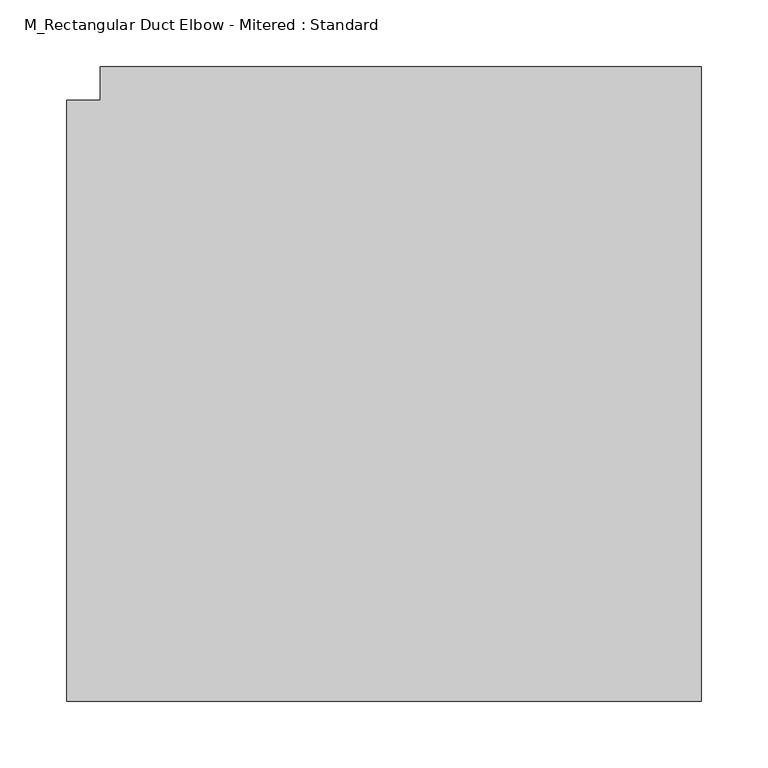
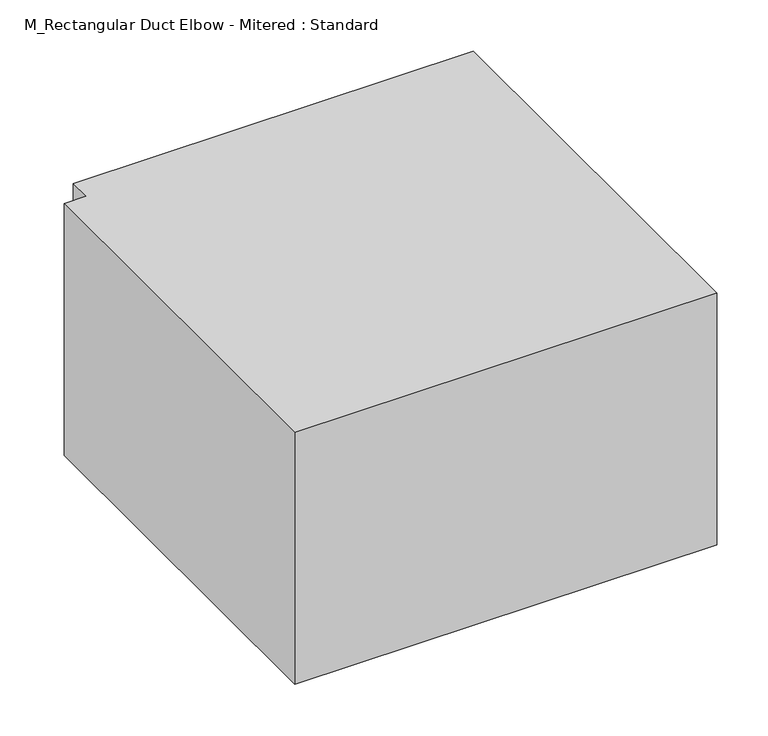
"""IFC4 building model written with IfcOpenShell, lengths in millimetres: duct fitting geometry, M_Rectangular Duct Elbow - Mitered : Standard."""

from ifc_helpers import new_model, si_unit, frame, origin, place, context, project, spatial, polyline, outline, extrude, source, transform, mapped, element, save


def m_rectangular_duct_elbow_mitered_standard_2b248f29(model_context):
    return source(origin(), model_context, "Body", "SweptSolid", [
        extrude(outline(polyline([(-250.0, -225.0), (-250.0, 225.0), (-225.0, 225.0), (-225.0, 250.0), (225.0, 250.0), (225.0, -225.0), (-250.0, -225.0)])), frame((0.0, 0.0, -150.0), z_axis=(0.0, 0.0, 1.0), x_axis=(1.0, 0.0, 0.0)), (0.0, 0.0, 1.0), 300.0),
        extrude(outline(polyline([(-250.0, -225.0), (-250.0, 225.0), (-225.0, 225.0), (-225.0, 250.0), (225.0, 250.0), (225.0, -225.0), (-250.0, -225.0)])), frame((0.0, 0.0, -150.0), z_axis=(0.0, 0.0, 1.0), x_axis=(1.0, 0.0, 0.0)), (0.0, 0.0, 1.0), 300.0),
        extrude(outline(polyline([(-250.0, -225.0), (-250.0, 225.0), (-225.0, 225.0), (-225.0, 250.0), (225.0, 250.0), (225.0, -225.0), (-250.0, -225.0)])), frame((0.0, 0.0, -150.0), z_axis=(0.0, 0.0, 1.0), x_axis=(1.0, 0.0, 0.0)), (0.0, 0.0, 1.0), 300.0),
    ])


if __name__ == "__main__":
    model = new_model("IFC4")
    model_context = context("Model", 3, world=origin())
    ifc_project = project(units=[si_unit("LENGTHUNIT", "METRE", prefix="MILLI")], contexts=[model_context])
    site = spatial("IfcSite", under=ifc_project)
    building = spatial("IfcBuilding", under=site)
    placement = place(None, origin())
    m_rectangular_duct_elbow_mitered_standard_shape = m_rectangular_duct_elbow_mitered_standard_2b248f29(model_context)
    element("IfcDuctFitting", 1, ObjectType="M_Rectangular Duct Elbow - Mitered : Standard", at=placement, inside=building, context=model_context, shape_type="MappedRepresentation", body=[
        mapped(m_rectangular_duct_elbow_mitered_standard_shape, transform((0.0, 0.0, 0.0), x_axis=(1.0, 0.0, 0.0), y_axis=(0.0, 1.0, 0.0), z_axis=(0.0, 0.0, 1.0))),
    ])
    save(model, "model.ifc")
